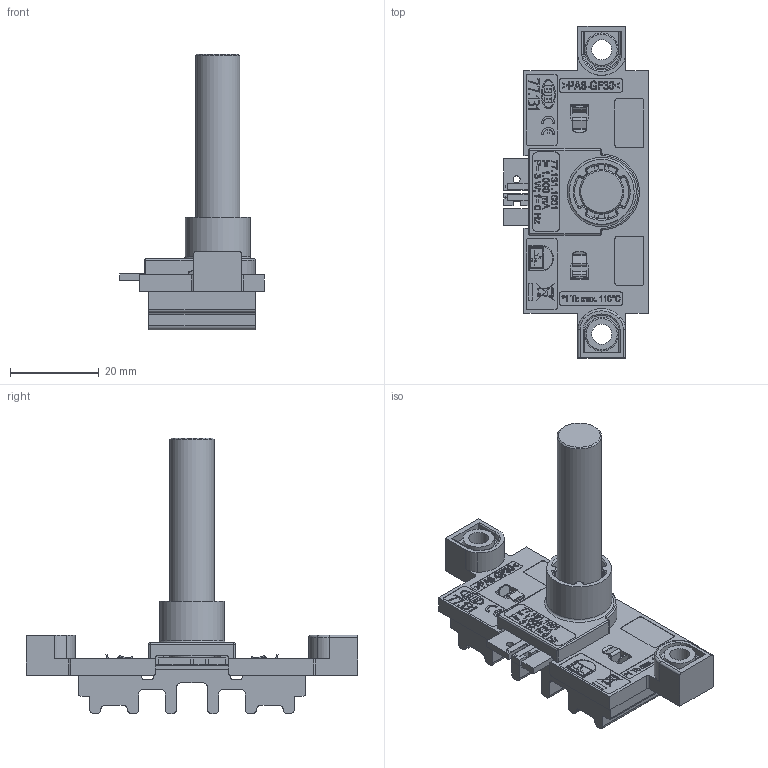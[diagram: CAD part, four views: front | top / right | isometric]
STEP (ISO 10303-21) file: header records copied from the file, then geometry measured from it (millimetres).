
FILE_DESCRIPTION(/* description */ ('Unknown'),/* implementation_level */ '2;1');
FILE_NAME(/* name */ '024-U04-09',/* time_stamp */ '2025-06-17T13:58:21+02:00',/* author */ ('Unknown'),/* organization */ ('Unknown'),/* preprocessor_version */ 'ST-DEVELOPER v16.7',/* originating_system */ 'Solid Edge',/* authorisation */ 'Unknown');
FILE_SCHEMA (('AUTOMOTIVE_DESIGN {1 0 10303 214 3 1 1}'));
Length unit declared in the file: millimetre
Products named in the file (10): 024-U04-09; 024-U09-07; 01X-900-06; 01Z-Y3X-07_oa_0; 024-U02-03; 01V-NB5-09; 01V-NB3-03; 01V-NB4-03; 024-U04-02; 024-U06-04
Assembly tree (10 placements, depth 3):
  024-U04-09
    024-U09-07
    01X-900-06  x2
    01Z-Y3X-07_oa_0
    024-U02-03
    01V-NB5-09
      01V-NB3-03
      01V-NB4-03
    024-U04-02
    024-U06-04
Bounding box: 32.55 x 74.7 x 62.1 mm (x, y, z)
Volume: 17285.7 mm3; surface area: 15393.5 mm2
Topology: 16 solids, 16 shells, 2373 faces, 6138 edges, 4041 vertices
Faces by surface type: plane 1651, bspline 377, cylinder 275, cone 36, torus 22, sphere 12
Full cylindrical faces by diameter (mm): 1 x1, 1.2 x4, 1.6 x1, 2.7 x1, 2.8 x3, 4.5 x2, 7 x2, 8.6 x2, 10 x1, 14.6 x1
Entity records: 85561 total; most frequent: CARTESIAN_POINT 28609, ORIENTED_EDGE 11434, DIRECTION 7958, EDGE_CURVE 5717, VERTEX_POINT 3828, LINE 3008, VECTOR 3008, EDGE_LOOP 2675
